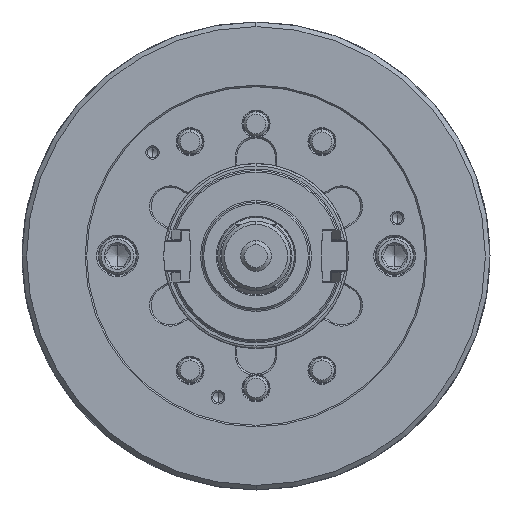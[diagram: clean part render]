
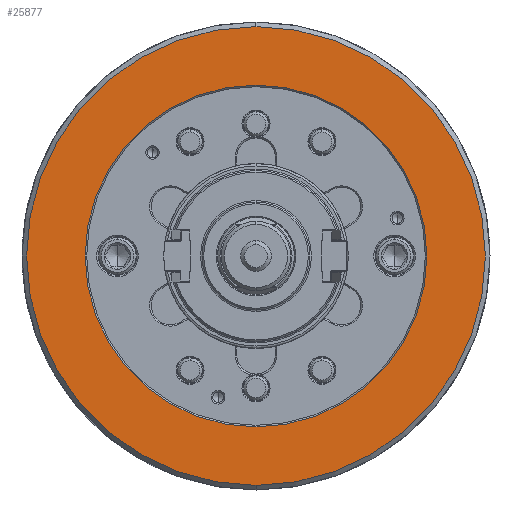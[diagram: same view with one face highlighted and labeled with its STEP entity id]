
A CAD part, left-side view. The second image highlights one B-rep face of the part: STEP entity #25877.
In plain terms, the highlighted planar face has unit normal (-1, 0, 0).
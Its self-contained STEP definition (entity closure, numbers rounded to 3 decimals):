
#5874 = DIRECTION ( 'NONE',  ( 1., 0., 0. ) ) ;
#7467 = AXIS2_PLACEMENT_3D ( 'NONE', #21879, #74833, #12763 ) ;
#7871 = EDGE_CURVE ( 'NONE', #93101, #65353, #82173, .T. ) ;
#12763 = DIRECTION ( 'NONE',  ( 0., 0., -1. ) ) ;
#18285 = AXIS2_PLACEMENT_3D ( 'NONE', #18407, #87938, #103889 ) ;
#18407 = CARTESIAN_POINT ( 'NONE',  ( -106., 0., 0. ) ) ;
#19766 = CIRCLE ( 'NONE', #36126, 111. ) ;
#21674 = ORIENTED_EDGE ( 'NONE', *, *, #7871, .T. ) ;
#21879 = CARTESIAN_POINT ( 'NONE',  ( -106., 0., 0. ) ) ;
#23012 = FACE_BOUND ( 'NONE', #71169, .T. ) ;
#24350 = ORIENTED_EDGE ( 'NONE', *, *, #93528, .F. ) ;
#25209 = CIRCLE ( 'NONE', #57979, 149. ) ;
#25877 = ADVANCED_FACE ( 'NONE', ( #85656, #23012 ), #76546, .F. ) ;
#30512 = VERTEX_POINT ( 'NONE', #63495 ) ;
#32770 = AXIS2_PLACEMENT_3D ( 'NONE', #110211, #111331, #60015 ) ;
#35802 = DIRECTION ( 'NONE',  ( 1., 0., 0. ) ) ;
#36126 = AXIS2_PLACEMENT_3D ( 'NONE', #112762, #35802, #103603 ) ;
#36600 = CARTESIAN_POINT ( 'NONE',  ( -106., 0., 149. ) ) ;
#36680 = ORIENTED_EDGE ( 'NONE', *, *, #101107, .F. ) ;
#41567 = CARTESIAN_POINT ( 'NONE',  ( -106., 0., -111. ) ) ;
#57196 = CARTESIAN_POINT ( 'NONE',  ( -106., 0., 0. ) ) ;
#57979 = AXIS2_PLACEMENT_3D ( 'NONE', #57196, #5874, #83959 ) ;
#59293 = ORIENTED_EDGE ( 'NONE', *, *, #111759, .T. ) ;
#60015 = DIRECTION ( 'NONE',  ( 0., 0., -1. ) ) ;
#63495 = CARTESIAN_POINT ( 'NONE',  ( -106., 0., -149. ) ) ;
#65353 = VERTEX_POINT ( 'NONE', #41567 ) ;
#71169 = EDGE_LOOP ( 'NONE', ( #21674, #59293 ) ) ;
#74833 = DIRECTION ( 'NONE',  ( 1., 0., 0. ) ) ;
#76546 = PLANE ( 'NONE',  #32770 ) ;
#81814 = VERTEX_POINT ( 'NONE', #36600 ) ;
#82173 = CIRCLE ( 'NONE', #7467, 111. ) ;
#83959 = DIRECTION ( 'NONE',  ( 0., 0., -1. ) ) ;
#84925 = CARTESIAN_POINT ( 'NONE',  ( -106., 0., 111. ) ) ;
#85656 = FACE_OUTER_BOUND ( 'NONE', #86280, .T. ) ;
#86280 = EDGE_LOOP ( 'NONE', ( #36680, #24350 ) ) ;
#87938 = DIRECTION ( 'NONE',  ( 1., 0., 0. ) ) ;
#92942 = CIRCLE ( 'NONE', #18285, 149. ) ;
#93101 = VERTEX_POINT ( 'NONE', #84925 ) ;
#93528 = EDGE_CURVE ( 'NONE', #81814, #30512, #25209, .T. ) ;
#101107 = EDGE_CURVE ( 'NONE', #30512, #81814, #92942, .T. ) ;
#103603 = DIRECTION ( 'NONE',  ( 0., 0., -1. ) ) ;
#103889 = DIRECTION ( 'NONE',  ( 0., 0., -1. ) ) ;
#110211 = CARTESIAN_POINT ( 'NONE',  ( -106., -149., 0. ) ) ;
#111331 = DIRECTION ( 'NONE',  ( 1., 0., 0. ) ) ;
#111759 = EDGE_CURVE ( 'NONE', #65353, #93101, #19766, .T. ) ;
#112762 = CARTESIAN_POINT ( 'NONE',  ( -106., 0., 0. ) ) ;
